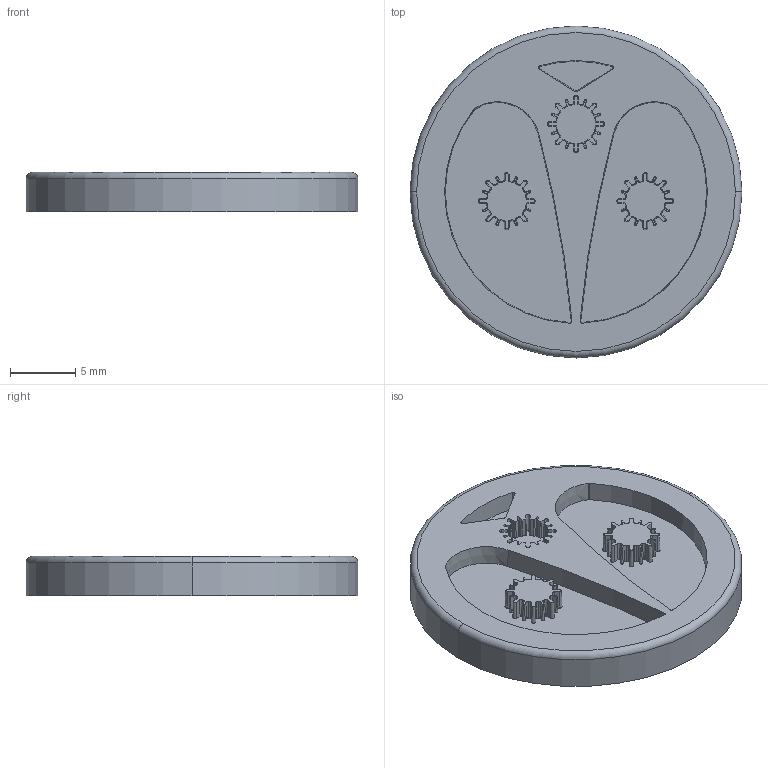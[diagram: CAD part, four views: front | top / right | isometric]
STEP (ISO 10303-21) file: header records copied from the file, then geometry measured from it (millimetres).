
FILE_DESCRIPTION((''),'2;1');
FILE_NAME('RANK12','2015-05-15T',('Daniel'),(''),'PRO/ENGINEER BY PARAMETRIC TECHNOLOGY CORPORATION, 2014000','PRO/ENGINEER BY PARAMETRIC TECHNOLOGY CORPORATION, 2014000','');
FILE_SCHEMA(('CONFIG_CONTROL_DESIGN'));
Length unit declared in the file: millimetre
Products named in the file (1): RANK12
Bounding box: 25.4 x 25.4 x 3 mm (x, y, z)
Volume: 1180 mm3; surface area: 1484.7 mm2
Topology: 1 solids, 1 shells, 316 faces, 922 edges, 614 vertices
Faces by surface type: cone 206, plane 106, torus 2, cylinder 2
Entity records: 10688 total; most frequent: DIRECTION 1974, CARTESIAN_POINT 1852, ORIENTED_EDGE 1844, EDGE_CURVE 922, AXIS2_PLACEMENT_3D 736, VERTEX_POINT 614, VECTOR 502, LINE 502
